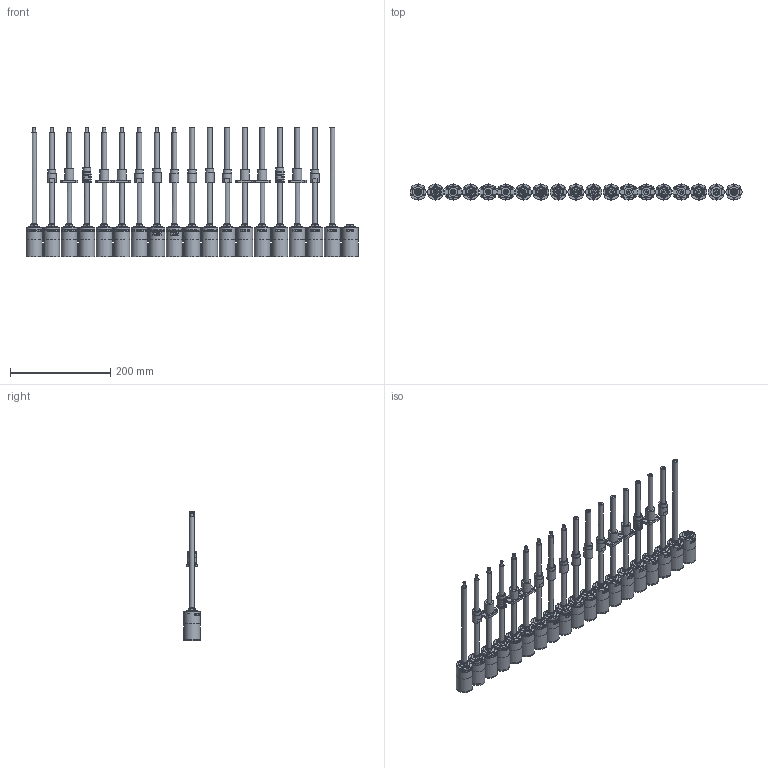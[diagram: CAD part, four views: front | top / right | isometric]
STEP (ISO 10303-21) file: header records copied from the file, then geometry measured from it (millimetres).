
FILE_DESCRIPTION(/* description */ (''),/* implementation_level */ '2;1');
FILE_NAME(/* name */ '32L-3stage_standard_KWNx_KWS1_KF9.stp',/* time_stamp */ '2024-02-27T15:31:40+01:00',/* author */ ('DR. FRITZ FAULHABER GmbH & Co. KG'),/* organization */ ('DR. FRITZ FAULHABER GmbH & Co. KG'),/* preprocessor_version */ 'ST-DEVELOPER v19.3',/* originating_system */ 'SIEMENS PLM Software NX2212.4000',/* authorisation */ '');
FILE_SCHEMA (('AUTOMOTIVE_DESIGN { 1 0 10303 214 3 1 1 1 }'));
Length unit declared in the file: millimetre
Products named in the file (1): C_objects
Bounding box: 662 x 32.01 x 257.5 mm (x, y, z)
Volume: 1204099.1 mm3; surface area: 293806.6 mm2
Topology: 19 solids, 19 shells, 2862 faces, 6774 edges, 4468 vertices
Faces by surface type: plane 1502, cylinder 687, bspline 614, torus 38, cone 21
Full cylindrical faces by diameter (mm): 2.5 x114, 4.5 x25, 6 x9, 6.4 x1, 7.5 x1, 8.1 x1, 10 x52, 10.6 x18, 14.568 x19, 15.8 x2, 16 x10, 18 x31, 18.5 x2, 22 x19, 29.5 x2, 29.8 x19, 31.999 x19, 32 x38
Entity records: 184391 total; most frequent: CARTESIAN_POINT 114176, ORIENTED_EDGE 12368, DIRECTION 9227, EDGE_CURVE 6184, VERTEX_POINT 4356, EDGE_LOOP 3995, AXIS2_PLACEMENT_3D 3855, B_SPLINE_CURVE_WITH_KNOTS 3062
